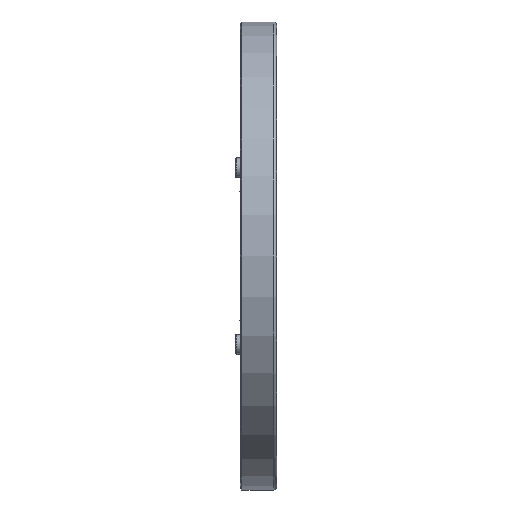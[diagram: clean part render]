
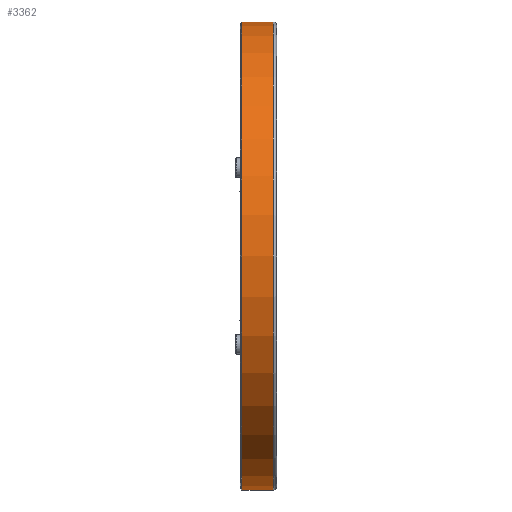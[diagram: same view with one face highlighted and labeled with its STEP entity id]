
A CAD part, left-side view. The second image highlights one B-rep face of the part: STEP entity #3362.
In plain terms, the highlighted cylindrical face has radius 29 mm (diameter 58 mm), a partial arc.
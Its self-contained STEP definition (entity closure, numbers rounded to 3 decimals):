
#212 = CARTESIAN_POINT ( 'NONE',  ( 0., 4.29, -29. ) ) ;
#222 = VERTEX_POINT ( 'NONE', #1523 ) ;
#265 = EDGE_CURVE ( 'NONE', #1481, #4044, #1946, .T. ) ;
#425 = VECTOR ( 'NONE', #5211, 1000. ) ;
#863 = AXIS2_PLACEMENT_3D ( 'NONE', #3457, #1266, #2235 ) ;
#1014 = ORIENTED_EDGE ( 'NONE', *, *, #3621, .T. ) ;
#1266 = DIRECTION ( 'NONE',  ( 0., -1., 0. ) ) ;
#1449 = EDGE_CURVE ( 'NONE', #1481, #4159, #3574, .T. ) ;
#1481 = VERTEX_POINT ( 'NONE', #2717 ) ;
#1523 = CARTESIAN_POINT ( 'NONE',  ( 0., 0.39, -29. ) ) ;
#1570 = CARTESIAN_POINT ( 'NONE',  ( 0., 0., 29. ) ) ;
#1738 = CYLINDRICAL_SURFACE ( 'NONE', #863, 29. ) ;
#1849 = CARTESIAN_POINT ( 'NONE',  ( 0., 0.39, 0. ) ) ;
#1877 = CARTESIAN_POINT ( 'NONE',  ( 0., 0.39, 29. ) ) ;
#1946 = LINE ( 'NONE', #1570, #4609 ) ;
#2204 = ORIENTED_EDGE ( 'NONE', *, *, #265, .F. ) ;
#2235 = DIRECTION ( 'NONE',  ( 0., 0., -1. ) ) ;
#2271 = CARTESIAN_POINT ( 'NONE',  ( 0., 4.29, 0. ) ) ;
#2523 = AXIS2_PLACEMENT_3D ( 'NONE', #1849, #3590, #5335 ) ;
#2570 = FACE_OUTER_BOUND ( 'NONE', #3337, .T. ) ;
#2660 = AXIS2_PLACEMENT_3D ( 'NONE', #2271, #4771, #4349 ) ;
#2717 = CARTESIAN_POINT ( 'NONE',  ( 0., 4.29, 29. ) ) ;
#2983 = CIRCLE ( 'NONE', #2523, 29. ) ;
#3272 = CARTESIAN_POINT ( 'NONE',  ( 0., 0., -29. ) ) ;
#3337 = EDGE_LOOP ( 'NONE', ( #2204, #5184, #1014, #3464 ) ) ;
#3362 = ADVANCED_FACE ( 'NONE', ( #2570 ), #1738, .T. ) ;
#3457 = CARTESIAN_POINT ( 'NONE',  ( 0., 0., 0. ) ) ;
#3464 = ORIENTED_EDGE ( 'NONE', *, *, #5328, .T. ) ;
#3574 = CIRCLE ( 'NONE', #2660, 29. ) ;
#3590 = DIRECTION ( 'NONE',  ( 0., 1., 0. ) ) ;
#3621 = EDGE_CURVE ( 'NONE', #4159, #222, #4295, .T. ) ;
#4044 = VERTEX_POINT ( 'NONE', #1877 ) ;
#4159 = VERTEX_POINT ( 'NONE', #212 ) ;
#4295 = LINE ( 'NONE', #3272, #425 ) ;
#4349 = DIRECTION ( 'NONE',  ( 0., 0., 1. ) ) ;
#4538 = DIRECTION ( 'NONE',  ( 0., -1., 0. ) ) ;
#4609 = VECTOR ( 'NONE', #4538, 1000. ) ;
#4771 = DIRECTION ( 'NONE',  ( 0., -1., 0. ) ) ;
#5184 = ORIENTED_EDGE ( 'NONE', *, *, #1449, .T. ) ;
#5211 = DIRECTION ( 'NONE',  ( 0., -1., 0. ) ) ;
#5328 = EDGE_CURVE ( 'NONE', #222, #4044, #2983, .T. ) ;
#5335 = DIRECTION ( 'NONE',  ( 0., 0., -1. ) ) ;
